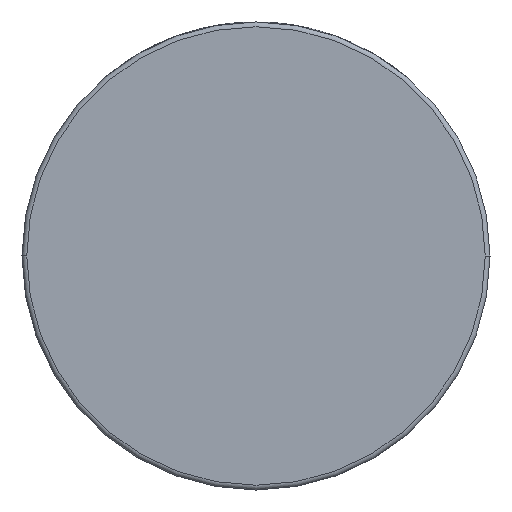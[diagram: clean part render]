
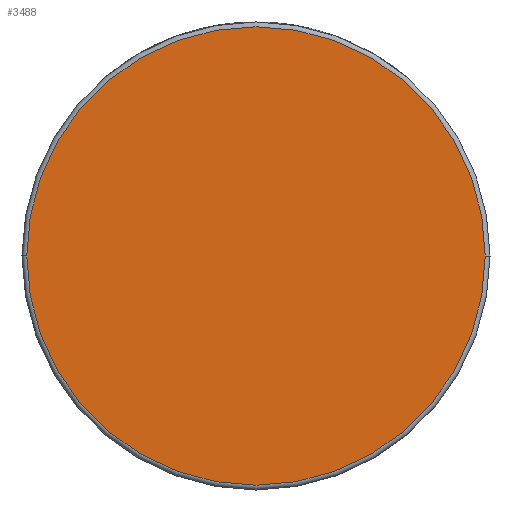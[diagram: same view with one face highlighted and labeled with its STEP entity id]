
A CAD part, front view. The second image highlights one B-rep face of the part: STEP entity #3488.
In plain terms, the highlighted planar face has unit normal (0, -1, 0).
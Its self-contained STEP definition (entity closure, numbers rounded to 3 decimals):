
#179 = VERTEX_POINT ( 'NONE', #1985 ) ;
#407 = CARTESIAN_POINT ( 'NONE',  ( 0., -30.5, 0. ) ) ;
#540 = DIRECTION ( 'NONE',  ( 0., -1., 0. ) ) ;
#973 = EDGE_LOOP ( 'NONE', ( #2297, #3576 ) ) ;
#1467 = CARTESIAN_POINT ( 'NONE',  ( 49., -30.5, 0. ) ) ;
#1592 = CARTESIAN_POINT ( 'NONE',  ( -48., -30.5, 0. ) ) ;
#1610 = DIRECTION ( 'NONE',  ( 1., 0., 0. ) ) ;
#1625 = CIRCLE ( 'NONE', #2772, 48. ) ;
#1821 = CIRCLE ( 'NONE', #4070, 48. ) ;
#1985 = CARTESIAN_POINT ( 'NONE',  ( 48., -30.5, 0. ) ) ;
#2007 = EDGE_CURVE ( 'NONE', #179, #3729, #1821, .T. ) ;
#2217 = EDGE_CURVE ( 'NONE', #3729, #179, #1625, .T. ) ;
#2297 = ORIENTED_EDGE ( 'NONE', *, *, #2007, .T. ) ;
#2671 = CARTESIAN_POINT ( 'NONE',  ( 0., -30.5, 0. ) ) ;
#2772 = AXIS2_PLACEMENT_3D ( 'NONE', #2671, #540, #1610 ) ;
#3024 = PLANE ( 'NONE',  #3350 ) ;
#3173 = DIRECTION ( 'NONE',  ( 0., -1., 0. ) ) ;
#3350 = AXIS2_PLACEMENT_3D ( 'NONE', #1467, #3582, #3772 ) ;
#3488 = ADVANCED_FACE ( 'NONE', ( #3708 ), #3024, .T. ) ;
#3576 = ORIENTED_EDGE ( 'NONE', *, *, #2217, .T. ) ;
#3582 = DIRECTION ( 'NONE',  ( 0., -1., 0. ) ) ;
#3708 = FACE_OUTER_BOUND ( 'NONE', #973, .T. ) ;
#3729 = VERTEX_POINT ( 'NONE', #1592 ) ;
#3772 = DIRECTION ( 'NONE',  ( 1., 0., 0. ) ) ;
#4070 = AXIS2_PLACEMENT_3D ( 'NONE', #407, #3173, #4109 ) ;
#4109 = DIRECTION ( 'NONE',  ( 1., 0., 0. ) ) ;
